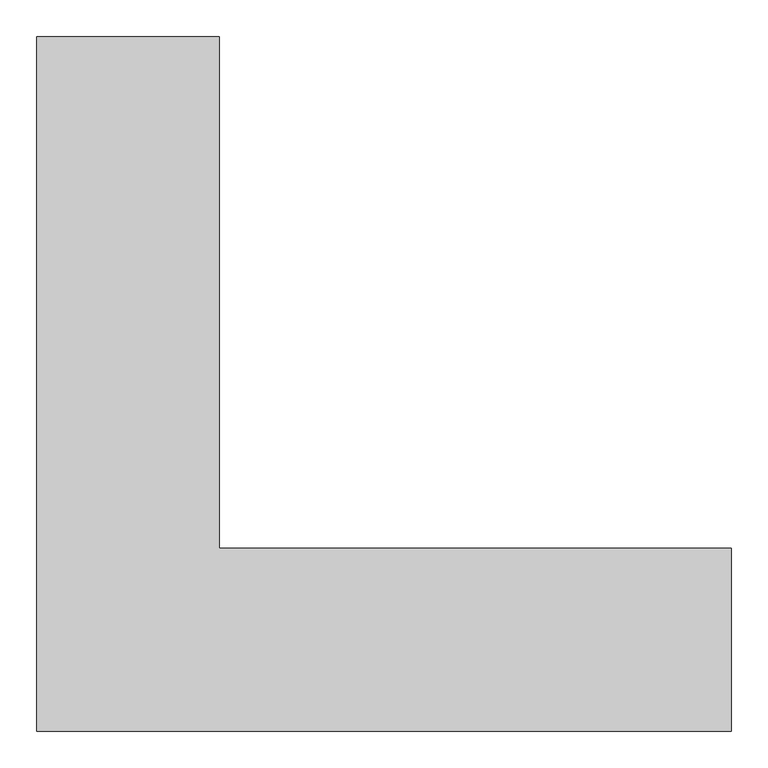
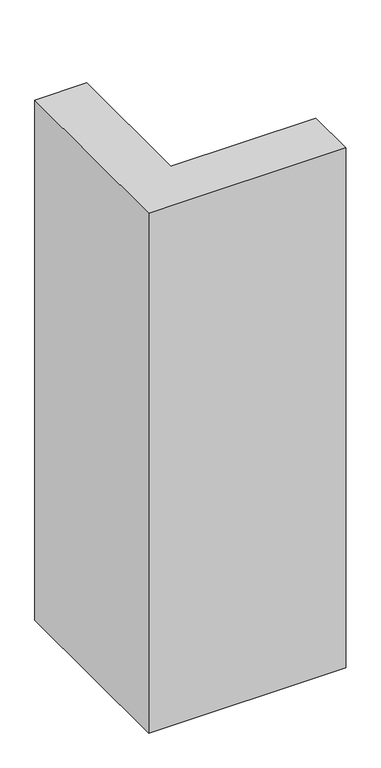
"""IFC4 building model written with IfcOpenShell, lengths in millimetres: column geometry, Columna Estructural Ele : ECO_Ele 95x95x25."""

from ifc_helpers import new_model, si_unit, frame, origin, place, context, project, spatial, polyline, outline, extrude, source, transform, mapped, element, save


def column_57c9f959(model_context):
    return source(origin(), model_context, "Body", "SweptSolid", [
        extrude(outline(polyline([(125.0, 825.0), (125.0, 125.0), (825.0, 125.0), (825.0, -125.0), (-125.0, -125.0), (-125.0, 825.0), (125.0, 825.0)])), frame((0.0, 0.0, 5400.0), z_axis=(0.0, 0.0, 1.0), x_axis=(1.0, 0.0, 0.0)), (0.0, 0.0, 1.0), 2650.0),
    ])


if __name__ == "__main__":
    model = new_model("IFC4")
    model_context = context("Model", 3, world=origin())
    ifc_project = project(units=[si_unit("LENGTHUNIT", "METRE", prefix="MILLI")], contexts=[model_context])
    site = spatial("IfcSite", under=ifc_project)
    building = spatial("IfcBuilding", under=site)
    placement = place(None, origin())
    column_shape = column_57c9f959(model_context)
    element("IfcColumn", 1, ObjectType="Columna Estructural Ele : ECO_Ele 95x95x25", at=placement, inside=building, context=model_context, shape_type="MappedRepresentation", body=[
        mapped(column_shape, transform((0.0, 0.0, 0.0), x_axis=(1.0, 0.0, 0.0), y_axis=(0.0, 1.0, 0.0), z_axis=(0.0, 0.0, 1.0))),
    ])
    save(model, "model.ifc")
